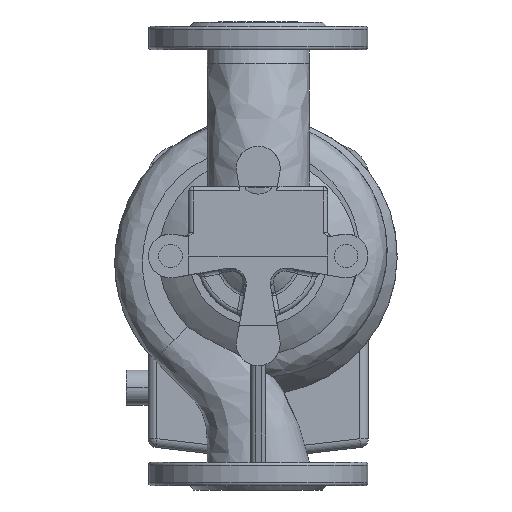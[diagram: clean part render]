
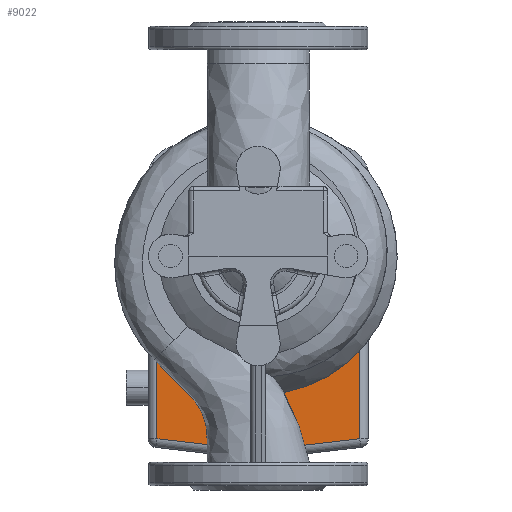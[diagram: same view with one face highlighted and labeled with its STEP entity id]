
A CAD part, front view. The second image highlights one B-rep face of the part: STEP entity #9022.
In plain terms, the highlighted planar face has unit normal (0, -1, 0) as drawn and (0, 0, 1) by its records, which use the part's own axes.
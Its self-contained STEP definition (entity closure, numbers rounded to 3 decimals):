
#262 = VERTEX_POINT ( 'NONE', #8468 ) ;
#271 = DIRECTION ( 'NONE',  ( 1., 0., 0. ) ) ;
#424 = CARTESIAN_POINT ( 'NONE',  ( -85.5, 52., -85.5 ) ) ;
#924 = VERTEX_POINT ( 'NONE', #23593 ) ;
#1966 = CARTESIAN_POINT ( 'NONE',  ( 0., -269., -85.5 ) ) ;
#2057 = VERTEX_POINT ( 'NONE', #20399 ) ;
#2277 = LINE ( 'NONE', #8646, #12213 ) ;
#2692 = EDGE_CURVE ( 'NONE', #22609, #11922, #21363, .T. ) ;
#2870 = ORIENTED_EDGE ( 'NONE', *, *, #18562, .F. ) ;
#3082 = LINE ( 'NONE', #25041, #19211 ) ;
#3184 = AXIS2_PLACEMENT_3D ( 'NONE', #8657, #20396, #22266 ) ;
#3753 = CARTESIAN_POINT ( 'NONE',  ( -77.402, 52., -85.5 ) ) ;
#3893 = AXIS2_PLACEMENT_3D ( 'NONE', #1966, #23808, #5582 ) ;
#4138 = CIRCLE ( 'NONE', #15645, 171. ) ;
#4299 = EDGE_CURVE ( 'NONE', #5827, #6662, #4138, .T. ) ;
#4405 = DIRECTION ( 'NONE',  ( 0., -1., 0. ) ) ;
#4468 = CARTESIAN_POINT ( 'NONE',  ( 77.402, 52., -85.5 ) ) ;
#4516 = DIRECTION ( 'NONE',  ( 0., -1., 0. ) ) ;
#4664 = EDGE_CURVE ( 'NONE', #11922, #262, #23006, .T. ) ;
#5066 = ORIENTED_EDGE ( 'NONE', *, *, #5877, .T. ) ;
#5295 = CARTESIAN_POINT ( 'NONE',  ( 69.25, 52., -85.5 ) ) ;
#5499 = ORIENTED_EDGE ( 'NONE', *, *, #2692, .T. ) ;
#5582 = DIRECTION ( 'NONE',  ( 0., -1., 0. ) ) ;
#5827 = VERTEX_POINT ( 'NONE', #3753 ) ;
#5877 = EDGE_CURVE ( 'NONE', #24505, #22609, #17855, .T. ) ;
#6526 = DIRECTION ( 'NONE',  ( 1., 0., 0. ) ) ;
#6662 = VERTEX_POINT ( 'NONE', #8857 ) ;
#6889 = EDGE_CURVE ( 'NONE', #2057, #11978, #13838, .T. ) ;
#8156 = LINE ( 'NONE', #424, #17313 ) ;
#8250 = LINE ( 'NONE', #12381, #18215 ) ;
#8468 = CARTESIAN_POINT ( 'NONE',  ( -69.25, 52., -85.5 ) ) ;
#8646 = CARTESIAN_POINT ( 'NONE',  ( -85.5, 52., -85.5 ) ) ;
#8657 = CARTESIAN_POINT ( 'NONE',  ( 0., 0., -85.5 ) ) ;
#8812 = ORIENTED_EDGE ( 'NONE', *, *, #17080, .T. ) ;
#8857 = CARTESIAN_POINT ( 'NONE',  ( -78.027, 50., -85.5 ) ) ;
#9022 = ADVANCED_FACE ( 'NONE', ( #20381 ), #20514, .T. ) ;
#9050 = DIRECTION ( 'NONE',  ( 1., 0., 0. ) ) ;
#9362 = ORIENTED_EDGE ( 'NONE', *, *, #4664, .T. ) ;
#9553 = CIRCLE ( 'NONE', #3184, 72.5 ) ;
#9561 = AXIS2_PLACEMENT_3D ( 'NONE', #16150, #24267, #12150 ) ;
#10784 = CARTESIAN_POINT ( 'NONE',  ( 85.5, 0., -85.5 ) ) ;
#10881 = CARTESIAN_POINT ( 'NONE',  ( -69.25, 85.5, -85.5 ) ) ;
#10966 = ORIENTED_EDGE ( 'NONE', *, *, #6889, .T. ) ;
#11922 = VERTEX_POINT ( 'NONE', #18053 ) ;
#11978 = VERTEX_POINT ( 'NONE', #4468 ) ;
#12150 = DIRECTION ( 'NONE',  ( 1., 0., 0. ) ) ;
#12213 = VECTOR ( 'NONE', #6526, 1000. ) ;
#12381 = CARTESIAN_POINT ( 'NONE',  ( -85.5, 50., -85.5 ) ) ;
#12638 = ORIENTED_EDGE ( 'NONE', *, *, #25112, .F. ) ;
#13048 = DIRECTION ( 'NONE',  ( 1., 0., 0. ) ) ;
#13838 = CIRCLE ( 'NONE', #9561, 171. ) ;
#14400 = DIRECTION ( 'NONE',  ( 0., 0., 1. ) ) ;
#15043 = ORIENTED_EDGE ( 'NONE', *, *, #4299, .T. ) ;
#15645 = AXIS2_PLACEMENT_3D ( 'NONE', #10784, #21169, #13048 ) ;
#16119 = DIRECTION ( 'NONE',  ( 0., 1., 0. ) ) ;
#16150 = CARTESIAN_POINT ( 'NONE',  ( -85.5, 0., -85.5 ) ) ;
#17080 = EDGE_CURVE ( 'NONE', #924, #2057, #3082, .T. ) ;
#17313 = VECTOR ( 'NONE', #24648, 1000. ) ;
#17855 = LINE ( 'NONE', #20240, #18071 ) ;
#17932 = VERTEX_POINT ( 'NONE', #26262 ) ;
#18053 = CARTESIAN_POINT ( 'NONE',  ( -69.25, 124.96, -85.5 ) ) ;
#18071 = VECTOR ( 'NONE', #16119, 1000. ) ;
#18215 = VECTOR ( 'NONE', #271, 1000. ) ;
#18273 = VECTOR ( 'NONE', #4516, 1000. ) ;
#18562 = EDGE_CURVE ( 'NONE', #5827, #262, #2277, .T. ) ;
#19211 = VECTOR ( 'NONE', #9050, 1000. ) ;
#20240 = CARTESIAN_POINT ( 'NONE',  ( 69.25, 85.5, -85.5 ) ) ;
#20242 = EDGE_CURVE ( 'NONE', #6662, #17932, #8250, .T. ) ;
#20381 = FACE_OUTER_BOUND ( 'NONE', #20491, .T. ) ;
#20396 = DIRECTION ( 'NONE',  ( 0., 0., -1. ) ) ;
#20399 = CARTESIAN_POINT ( 'NONE',  ( 78.027, 50., -85.5 ) ) ;
#20491 = EDGE_LOOP ( 'NONE', ( #12638, #5066, #5499, #9362, #2870, #15043, #22155, #22553, #8812, #10966 ) ) ;
#20514 = PLANE ( 'NONE',  #26224 ) ;
#21169 = DIRECTION ( 'NONE',  ( 0., 0., 1. ) ) ;
#21363 = CIRCLE ( 'NONE', #3893, 400. ) ;
#22155 = ORIENTED_EDGE ( 'NONE', *, *, #20242, .T. ) ;
#22266 = DIRECTION ( 'NONE',  ( 1., 0., 0. ) ) ;
#22553 = ORIENTED_EDGE ( 'NONE', *, *, #25165, .T. ) ;
#22609 = VERTEX_POINT ( 'NONE', #24533 ) ;
#22637 = CARTESIAN_POINT ( 'NONE',  ( 41.5, 85.5, -85.5 ) ) ;
#23006 = LINE ( 'NONE', #10881, #18273 ) ;
#23593 = CARTESIAN_POINT ( 'NONE',  ( 52.5, 50., -85.5 ) ) ;
#23808 = DIRECTION ( 'NONE',  ( 0., 0., 1. ) ) ;
#24267 = DIRECTION ( 'NONE',  ( 0., 0., 1. ) ) ;
#24505 = VERTEX_POINT ( 'NONE', #5295 ) ;
#24533 = CARTESIAN_POINT ( 'NONE',  ( 69.25, 124.96, -85.5 ) ) ;
#24648 = DIRECTION ( 'NONE',  ( 1., 0., 0. ) ) ;
#25041 = CARTESIAN_POINT ( 'NONE',  ( -85.5, 50., -85.5 ) ) ;
#25112 = EDGE_CURVE ( 'NONE', #24505, #11978, #8156, .T. ) ;
#25165 = EDGE_CURVE ( 'NONE', #17932, #924, #9553, .T. ) ;
#26224 = AXIS2_PLACEMENT_3D ( 'NONE', #22637, #14400, #4405 ) ;
#26262 = CARTESIAN_POINT ( 'NONE',  ( -52.5, 50., -85.5 ) ) ;
